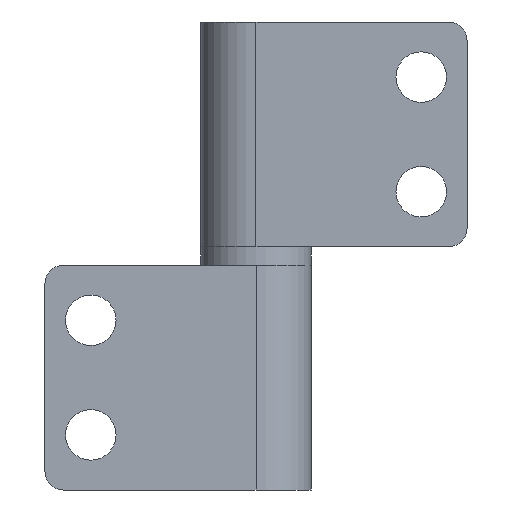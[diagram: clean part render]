
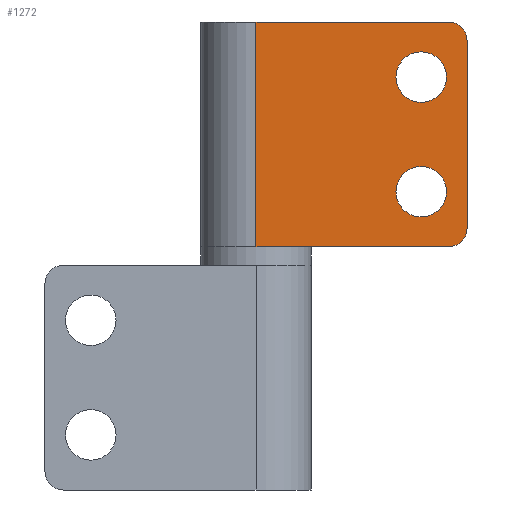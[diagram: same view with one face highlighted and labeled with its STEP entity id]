
A CAD part, front view. The second image highlights one B-rep face of the part: STEP entity #1272.
In plain terms, the highlighted planar face has unit normal (0, -1, 0).
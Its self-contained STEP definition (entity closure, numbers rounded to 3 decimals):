
#14 = CARTESIAN_POINT ( 'NONE',  ( 0., -6., -24.5 ) ) ;
#42 = CARTESIAN_POINT ( 'NONE',  ( 0., -6., 0. ) ) ;
#66 = ORIENTED_EDGE ( 'NONE', *, *, #748, .T. ) ;
#68 = VERTEX_POINT ( 'NONE', #606 ) ;
#75 = CARTESIAN_POINT ( 'NONE',  ( 23., -6., -24.5 ) ) ;
#90 = VECTOR ( 'NONE', #570, 1000. ) ;
#109 = VERTEX_POINT ( 'NONE', #407 ) ;
#129 = DIRECTION ( 'NONE',  ( 0., 0., -1. ) ) ;
#142 = CIRCLE ( 'NONE', #784, 2.75 ) ;
#161 = LINE ( 'NONE', #75, #351 ) ;
#168 = LINE ( 'NONE', #1138, #90 ) ;
#170 = ORIENTED_EDGE ( 'NONE', *, *, #902, .F. ) ;
#192 = CARTESIAN_POINT ( 'NONE',  ( 21., -6., -2. ) ) ;
#201 = DIRECTION ( 'NONE',  ( 1., 0., 0. ) ) ;
#221 = CIRCLE ( 'NONE', #957, 2.75 ) ;
#232 = CARTESIAN_POINT ( 'NONE',  ( 18., -6., -6. ) ) ;
#265 = VERTEX_POINT ( 'NONE', #464 ) ;
#269 = DIRECTION ( 'NONE',  ( 1., 0., 0. ) ) ;
#282 = CARTESIAN_POINT ( 'NONE',  ( 18., -6., -3.25 ) ) ;
#291 = ORIENTED_EDGE ( 'NONE', *, *, #330, .F. ) ;
#306 = EDGE_CURVE ( 'NONE', #961, #109, #168, .T. ) ;
#330 = EDGE_CURVE ( 'NONE', #109, #1006, #932, .T. ) ;
#331 = ORIENTED_EDGE ( 'NONE', *, *, #537, .T. ) ;
#345 = CIRCLE ( 'NONE', #1064, 2. ) ;
#347 = PLANE ( 'NONE',  #724 ) ;
#351 = VECTOR ( 'NONE', #563, 1000. ) ;
#357 = VERTEX_POINT ( 'NONE', #282 ) ;
#363 = FACE_BOUND ( 'NONE', #851, .T. ) ;
#372 = ORIENTED_EDGE ( 'NONE', *, *, #448, .F. ) ;
#384 = DIRECTION ( 'NONE',  ( 0., 0., -1. ) ) ;
#396 = LINE ( 'NONE', #684, #1139 ) ;
#399 = DIRECTION ( 'NONE',  ( 0., -1., 0. ) ) ;
#407 = CARTESIAN_POINT ( 'NONE',  ( 0., -6., 0. ) ) ;
#424 = EDGE_LOOP ( 'NONE', ( #1217, #66, #291, #937, #527, #331 ) ) ;
#430 = DIRECTION ( 'NONE',  ( 0., -1., 0. ) ) ;
#437 = CARTESIAN_POINT ( 'NONE',  ( 18., -6., -8.75 ) ) ;
#448 = EDGE_CURVE ( 'NONE', #798, #1248, #221, .T. ) ;
#464 = CARTESIAN_POINT ( 'NONE',  ( 21., -6., -24.5 ) ) ;
#503 = DIRECTION ( 'NONE',  ( 0., -1., 0. ) ) ;
#513 = EDGE_CURVE ( 'NONE', #1248, #798, #763, .T. ) ;
#527 = ORIENTED_EDGE ( 'NONE', *, *, #764, .T. ) ;
#537 = EDGE_CURVE ( 'NONE', #265, #1214, #823, .T. ) ;
#555 = CARTESIAN_POINT ( 'NONE',  ( 0., -6., -24.5 ) ) ;
#563 = DIRECTION ( 'NONE',  ( 0., 0., 1. ) ) ;
#570 = DIRECTION ( 'NONE',  ( 0., 0., 1. ) ) ;
#606 = CARTESIAN_POINT ( 'NONE',  ( 23., -6., -2. ) ) ;
#643 = AXIS2_PLACEMENT_3D ( 'NONE', #1008, #503, #696 ) ;
#647 = CIRCLE ( 'NONE', #827, 2.75 ) ;
#684 = CARTESIAN_POINT ( 'NONE',  ( 0., -6., -24.5 ) ) ;
#696 = DIRECTION ( 'NONE',  ( 0., 0., -1. ) ) ;
#702 = CARTESIAN_POINT ( 'NONE',  ( 18., -6., -18.5 ) ) ;
#724 = AXIS2_PLACEMENT_3D ( 'NONE', #555, #847, #1241 ) ;
#748 = EDGE_CURVE ( 'NONE', #68, #1006, #345, .T. ) ;
#750 = CARTESIAN_POINT ( 'NONE',  ( 18., -6., -21.25 ) ) ;
#763 = CIRCLE ( 'NONE', #1275, 2.75 ) ;
#764 = EDGE_CURVE ( 'NONE', #961, #265, #396, .T. ) ;
#784 = AXIS2_PLACEMENT_3D ( 'NONE', #1130, #1036, #816 ) ;
#798 = VERTEX_POINT ( 'NONE', #1228 ) ;
#816 = DIRECTION ( 'NONE',  ( 0., 0., -1. ) ) ;
#822 = EDGE_LOOP ( 'NONE', ( #962, #170 ) ) ;
#823 = CIRCLE ( 'NONE', #643, 2. ) ;
#827 = AXIS2_PLACEMENT_3D ( 'NONE', #232, #430, #129 ) ;
#842 = FACE_BOUND ( 'NONE', #822, .T. ) ;
#847 = DIRECTION ( 'NONE',  ( 0., -1., 0. ) ) ;
#851 = EDGE_LOOP ( 'NONE', ( #372, #1135 ) ) ;
#902 = EDGE_CURVE ( 'NONE', #922, #357, #647, .T. ) ;
#922 = VERTEX_POINT ( 'NONE', #437 ) ;
#931 = CARTESIAN_POINT ( 'NONE',  ( 21., -6., 0. ) ) ;
#932 = LINE ( 'NONE', #42, #1257 ) ;
#937 = ORIENTED_EDGE ( 'NONE', *, *, #306, .F. ) ;
#957 = AXIS2_PLACEMENT_3D ( 'NONE', #1261, #1090, #1258 ) ;
#961 = VERTEX_POINT ( 'NONE', #14 ) ;
#962 = ORIENTED_EDGE ( 'NONE', *, *, #976, .F. ) ;
#976 = EDGE_CURVE ( 'NONE', #357, #922, #142, .T. ) ;
#1006 = VERTEX_POINT ( 'NONE', #931 ) ;
#1008 = CARTESIAN_POINT ( 'NONE',  ( 21., -6., -22.5 ) ) ;
#1036 = DIRECTION ( 'NONE',  ( 0., -1., 0. ) ) ;
#1064 = AXIS2_PLACEMENT_3D ( 'NONE', #192, #1262, #384 ) ;
#1090 = DIRECTION ( 'NONE',  ( 0., -1., 0. ) ) ;
#1130 = CARTESIAN_POINT ( 'NONE',  ( 18., -6., -6. ) ) ;
#1135 = ORIENTED_EDGE ( 'NONE', *, *, #513, .F. ) ;
#1138 = CARTESIAN_POINT ( 'NONE',  ( 0., -6., -24.5 ) ) ;
#1139 = VECTOR ( 'NONE', #201, 1000. ) ;
#1148 = CARTESIAN_POINT ( 'NONE',  ( 23., -6., -22.5 ) ) ;
#1200 = DIRECTION ( 'NONE',  ( 0., 0., -1. ) ) ;
#1214 = VERTEX_POINT ( 'NONE', #1148 ) ;
#1217 = ORIENTED_EDGE ( 'NONE', *, *, #1223, .T. ) ;
#1223 = EDGE_CURVE ( 'NONE', #1214, #68, #161, .T. ) ;
#1228 = CARTESIAN_POINT ( 'NONE',  ( 18., -6., -15.75 ) ) ;
#1235 = FACE_OUTER_BOUND ( 'NONE', #424, .T. ) ;
#1241 = DIRECTION ( 'NONE',  ( 0., 0., -1. ) ) ;
#1248 = VERTEX_POINT ( 'NONE', #750 ) ;
#1257 = VECTOR ( 'NONE', #269, 1000. ) ;
#1258 = DIRECTION ( 'NONE',  ( 0., 0., -1. ) ) ;
#1261 = CARTESIAN_POINT ( 'NONE',  ( 18., -6., -18.5 ) ) ;
#1262 = DIRECTION ( 'NONE',  ( 0., -1., 0. ) ) ;
#1272 = ADVANCED_FACE ( 'NONE', ( #363, #842, #1235 ), #347, .T. ) ;
#1275 = AXIS2_PLACEMENT_3D ( 'NONE', #702, #399, #1200 ) ;
